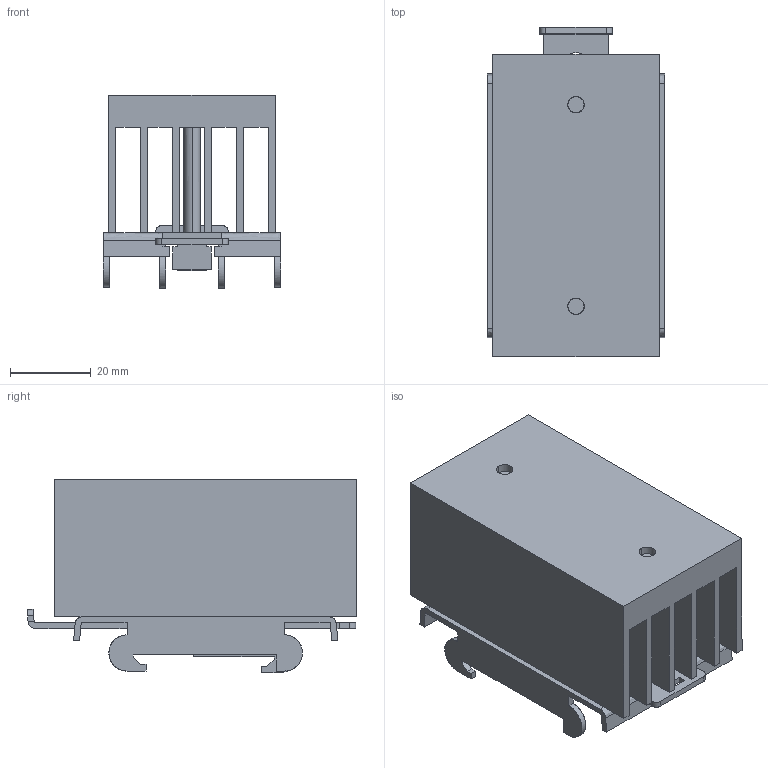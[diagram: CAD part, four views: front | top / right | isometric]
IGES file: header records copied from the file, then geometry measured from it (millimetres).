
Global section: file name: V:\RE DOCS 110324\Projects\0-Catalogue 3D-2D\Heatsink\3D\HeatS MM010259 RHS07-RHS100_ASM.igs; native system: AutoCAD-17.2s (LMS Tech) (Microsoft Windows NT Version 5.2 (x64)); preprocessor: Autodesk IGES Translator Mechanical Desktop 2009 (Feb 21 2008) from Autodesk, Inc.; date: 20140328.103039; units: millimetre
Bounding box: 44 x 81.79 x 47.85 mm (x, y, z)
Surface area: 42380.6 mm2 (no closed solid volume)
Topology: 0 solids, 0 shells, 187 faces, 1188 edges, 1188 vertices
Faces by surface type: bspline 187
